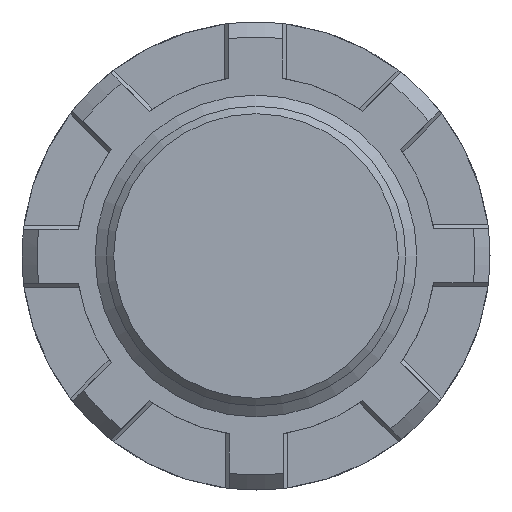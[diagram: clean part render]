
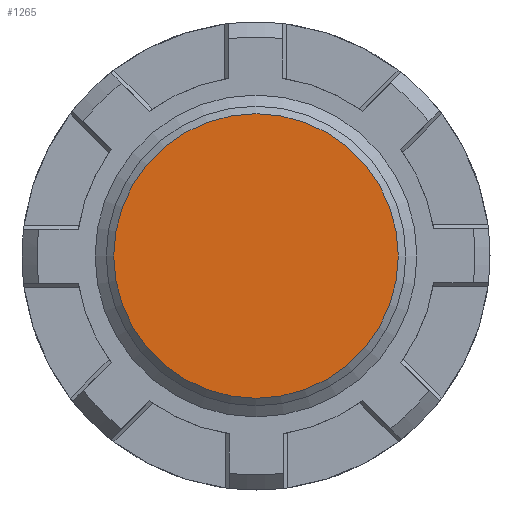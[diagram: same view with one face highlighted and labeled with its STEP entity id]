
A CAD part, front view. The second image highlights one B-rep face of the part: STEP entity #1265.
In plain terms, the highlighted planar face has unit normal (0, -1, 0).
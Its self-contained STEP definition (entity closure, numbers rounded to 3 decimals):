
#83=CIRCLE('',#1430,3.8);
#172=FACE_OUTER_BOUND('',#241,.T.);
#241=EDGE_LOOP('',(#1068));
#572=VERTEX_POINT('',#2236);
#756=EDGE_CURVE('',#572,#572,#83,.T.);
#1068=ORIENTED_EDGE('',*,*,#756,.F.);
#1206=PLANE('',#1433);
#1265=ADVANCED_FACE('',(#172),#1206,.T.);
#1430=AXIS2_PLACEMENT_3D('',#2237,#1801,#1802);
#1433=AXIS2_PLACEMENT_3D('',#2243,#1808,#1809);
#1801=DIRECTION('center_axis',(0.,1.,0.));
#1802=DIRECTION('ref_axis',(-1.,0.,0.));
#1808=DIRECTION('center_axis',(0.,-1.,0.));
#1809=DIRECTION('ref_axis',(0.,0.,-1.));
#2236=CARTESIAN_POINT('',(3.8,0.,0.));
#2237=CARTESIAN_POINT('Origin',(0.,0.,0.));
#2243=CARTESIAN_POINT('Origin',(0.,0.,0.));
